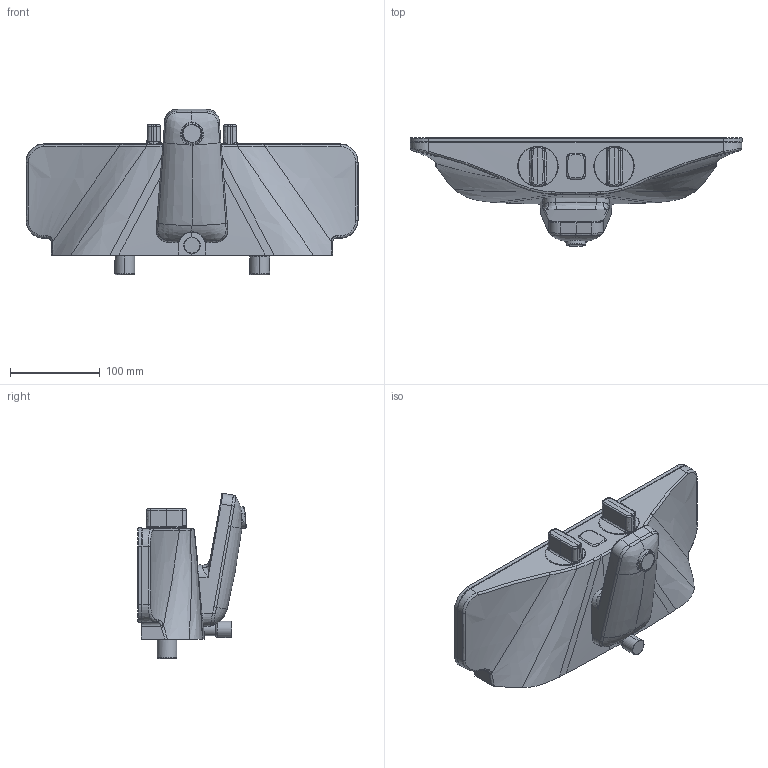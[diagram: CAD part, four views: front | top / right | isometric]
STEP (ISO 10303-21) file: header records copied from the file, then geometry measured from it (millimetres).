
FILE_DESCRIPTION (( 'STEP AP203' ), '1' );
FILE_NAME ('7542U-15(2017)+5864217284.STEP', '2017-10-19T09:55:45', ( '' ), ( '' ), 'SwSTEP 2.0', 'SolidWorks 2016', '' );
FILE_SCHEMA (( 'CONFIG_CONTROL_DESIGN' ));
Length unit declared in the file: millimetre
Products named in the file (1): 7542U-15(2017)+5864217284
Bounding box: 370.6 x 121.22 x 184.7 mm (x, y, z)
Surface area: 167272.4 mm2 (no closed solid volume)
Topology: 0 solids, 3 shells, 381 faces, 961 edges, 586 vertices
Faces by surface type: bspline 203, cylinder 58, plane 52, torus 41, cone 19, sphere 8
Entity records: 27368 total; most frequent: CARTESIAN_POINT 20119, ORIENTED_EDGE 1906, EDGE_CURVE 956, DIRECTION 860, VERTEX_POINT 586, B_SPLINE_CURVE_WITH_KNOTS 574, EDGE_LOOP 389, ADVANCED_FACE 381
